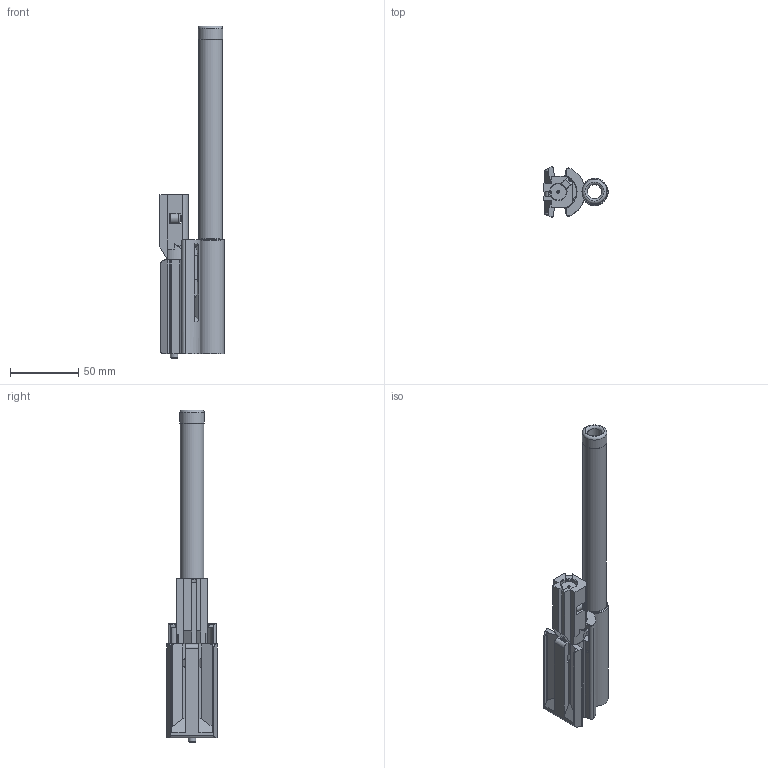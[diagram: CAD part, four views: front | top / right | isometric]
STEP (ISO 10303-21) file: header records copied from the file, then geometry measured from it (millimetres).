
FILE_DESCRIPTION((''),'2;1');
FILE_NAME('F:\GMK_DATA\Design\Inventor\GMK\G3\Verschluss.stp','2012-08-13T11:40:06',('Oscar1'),(''),'Autodesk Inventor 2011','Autodesk Inventor 2011','');
FILE_SCHEMA(('AUTOMOTIVE_DESIGN { 1 0 10303 214 1 1 1 1 }'));
Length unit declared in the file: millimetre
Products named in the file (14): Verschluss; Verschlussträger; Steuerstück; Schlagbolzenfeder; Schlagbolzen; Verschlusskopf; Rollenhalter; Verschlussrolle; ISO 8752 - 2 x 4  (1) DIN EN ISO; ISO 8734 - 3 x 24 - ADIN EN (1); Verschlusshaltefeder; Verschlussklammer; Patronenhalter; Patronenfeder
Assembly tree (14 placements, depth 2):
  Verschluss
    Verschlussträger
    Steuerstück
    Schlagbolzenfeder
    Schlagbolzen
    Verschlusskopf
    Rollenhalter
    Verschlussrolle  x2
    ISO 8752 - 2 x 4  (1) DIN EN ISO
    ISO 8734 - 3 x 24 - ADIN EN (1)
    Verschlusshaltefeder
    Verschlussklammer
    Patronenhalter
    Patronenfeder
Bounding box: 47.15 x 36.99 x 244.07 mm (x, y, z)
Volume: 99956.1 mm3; surface area: 53977.1 mm2
Topology: 14 solids, 14 shells, 391 faces, 974 edges, 618 vertices
Faces by surface type: plane 182, cylinder 134, torus 35, cone 16, bspline 14, sphere 10
Full cylindrical faces by diameter (mm): 1 x10, 1.5 x1, 2 x7, 3 x3, 3.5 x4, 4 x3, 5 x1, 5.5 x2, 7 x3, 7.5 x2, 8.5 x1, 9 x1, 10 x2, 10.5 x1, 11 x2, 13 x2, 17.5 x1, 18 x1
Entity records: 14377 total; most frequent: CARTESIAN_POINT 5117, DIRECTION 1883, ORIENTED_EDGE 1722, EDGE_CURVE 861, AXIS2_PLACEMENT_3D 706, VERTEX_POINT 595, EDGE_LOOP 506, VECTOR 471
